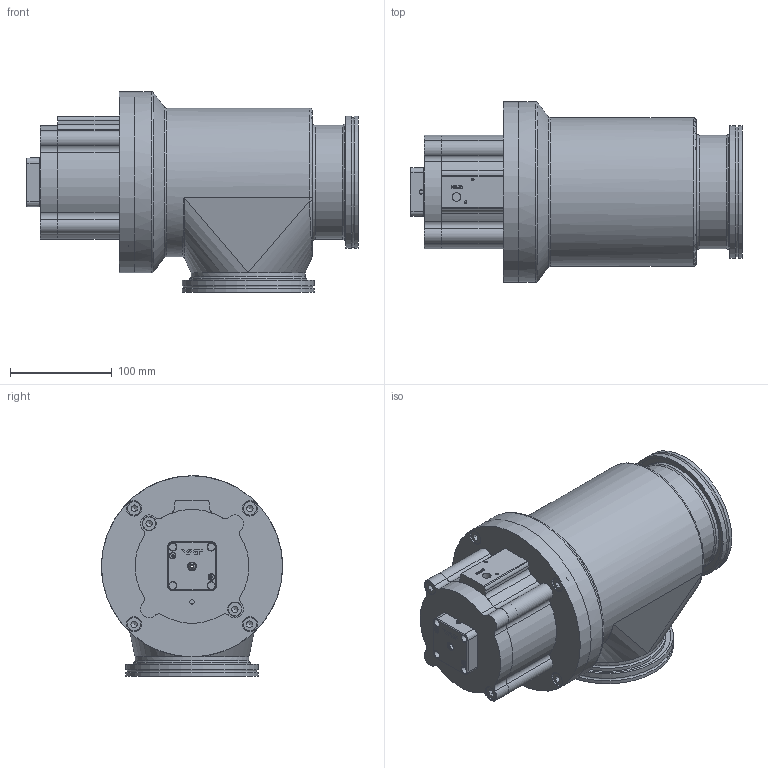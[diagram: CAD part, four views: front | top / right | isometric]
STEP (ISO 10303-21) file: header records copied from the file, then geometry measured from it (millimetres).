
FILE_DESCRIPTION(/* description */ (''),/* implementation_level */ '2;1');
FILE_NAME(/* name */ '1260951700_203.stp',/* time_stamp */ '2013-07-16T10:21:53+02:00',/* author */ (''),/* organization */ (''),/* preprocessor_version */ 'ST-DEVELOPER v11',/* originating_system */ 'SIEMENS PLM Software NX 7.5',/* authorisation */ '');
FILE_SCHEMA (('AP203_CONFIGURATION_CONTROLLED_3D_DESIGN_OF_MECHANICAL_PARTS_AND_ASSEMBLIES_MIM_LF'));
Length unit declared in the file: millimetre
Products named in the file (13): 233359; 236204_1.1; 518957_18172ID; n-6121-026.2; 517625_18242ID; 543750; 542372; 228777; 476060; 239983.3; 518946_MODEL; 542323_MODEL; 577329
Assembly tree (18 placements, depth 3):
  577329
    476060
    228777  x6
    542372
    542323_MODEL
      517625_18242ID
      n-6121-026.2
    518946_MODEL
      518957_18172ID
    543750
    239983.3
      236204_1.1  x2
      233359
Bounding box: 326.31 x 178 x 197 mm (x, y, z)
Volume: 1828297.8 mm3; surface area: 441142.9 mm2
Topology: 27 solids, 27 shells, 735 faces, 1800 edges, 1164 vertices
Faces by surface type: plane 369, cylinder 215, cone 78, bspline 34, torus 30, extrusion 8, sphere 1
Full cylindrical faces by diameter (mm): 2.5 x5, 3 x6, 3.85 x1, 4 x1, 4.2 x2, 5.6 x2, 6.2 x2, 6.66 x6, 6.7 x6, 6.8 x8, 7.4 x1, 8 x13, 8.15 x2, 8.4 x1, 8.566 x1, 9 x8, 13 x6, 14 x2, 15 x6, 21 x1, 23.011 x2, 23.3 x2, 29.4 x2, 30 x1, 33.7 x1, 36 x1, 39.5 x1, 40 x1, 44.4 x1, 50 x1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
Entity records: 21728 total; most frequent: CARTESIAN_POINT 5951, DIRECTION 2899, ORIENTED_EDGE 2688, EDGE_CURVE 1344, AXIS2_PLACEMENT_3D 1128, VERTEX_POINT 971, EDGE_LOOP 892, VECTOR 643
